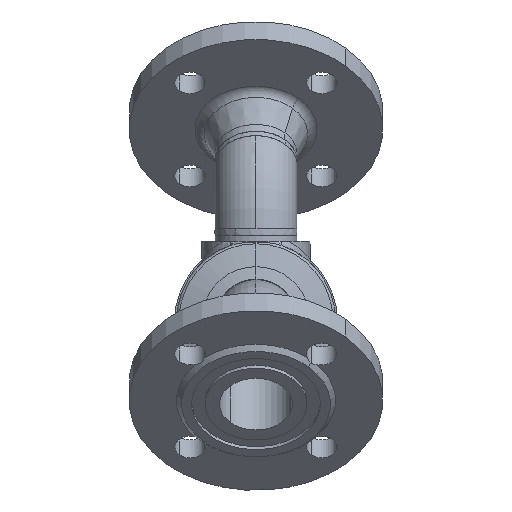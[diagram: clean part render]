
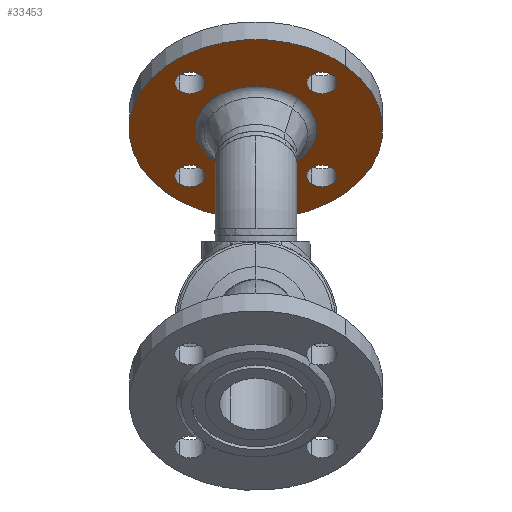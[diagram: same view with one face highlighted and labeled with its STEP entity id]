
A CAD part, front view. The second image highlights one B-rep face of the part: STEP entity #33453.
In plain terms, the highlighted planar face has unit normal (0, -0.707, -0.707) as drawn and (0, 1, 0) by its records, which use the part's own axes.
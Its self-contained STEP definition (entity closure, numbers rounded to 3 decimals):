
#32777 = EDGE_LOOP ( 'NONE', ( #31826, #9749 ) ) ;
#33120 = ORIENTED_EDGE ( 'NONE', *, *, #14533, .F. ) ;
#16929 = VERTEX_POINT ( 'NONE', #36079 ) ;
#33453 = ADVANCED_FACE ( 'NONE', ( #9134, #9135, #9172, #9173, #9174, #9175 ), #9176, .F. ) ;
#50329 = CARTESIAN_POINT ( 'NONE',  ( -9., 18., 55. ) ) ;
#50719 = CIRCLE ( 'NONE', #50720, 9. ) ;
#50720 = AXIS2_PLACEMENT_3D ( 'NONE', #50721, #50722, #50723 ) ;
#50721 = CARTESIAN_POINT ( 'NONE',  ( 0., 18., 55. ) ) ;
#50722 = DIRECTION ( 'NONE',  ( 0., 1., 0. ) ) ;
#50723 = DIRECTION ( 'NONE',  ( 0., 0., -1. ) ) ;
#34834 = EDGE_CURVE ( 'NONE', #38488, #41475, #10770, .T. ) ;
#2844 = ORIENTED_EDGE ( 'NONE', *, *, #43774, .T. ) ;
#35871 = CARTESIAN_POINT ( 'NONE',  ( -9., 18., -55. ) ) ;
#35879 = CARTESIAN_POINT ( 'NONE',  ( -75., 18., 0. ) ) ;
#36079 = CARTESIAN_POINT ( 'NONE',  ( -46., 18., 0. ) ) ;
#36080 = CIRCLE ( 'NONE', #36131, 75. ) ;
#36131 = AXIS2_PLACEMENT_3D ( 'NONE', #36132, #36133, #36134 ) ;
#36132 = CARTESIAN_POINT ( 'NONE',  ( 0., 18., 0. ) ) ;
#36133 = DIRECTION ( 'NONE',  ( 0., 1., 0. ) ) ;
#36134 = DIRECTION ( 'NONE',  ( -1., 0., 0. ) ) ;
#38488 = VERTEX_POINT ( 'NONE', #28221 ) ;
#22146 = ORIENTED_EDGE ( 'NONE', *, *, #30181, .F. ) ;
#6027 = EDGE_CURVE ( 'NONE', #41276, #44269, #28706, .T. ) ;
#6175 = EDGE_CURVE ( 'NONE', #47395, #43178, #43805, .T. ) ;
#39088 = EDGE_CURVE ( 'NONE', #41475, #38488, #30009, .T. ) ;
#6763 = CARTESIAN_POINT ( 'NONE',  ( 36.091, 18., 0. ) ) ;
#6966 = CIRCLE ( 'NONE', #6967, 9. ) ;
#6967 = AXIS2_PLACEMENT_3D ( 'NONE', #6968, #6969, #6970 ) ;
#6968 = CARTESIAN_POINT ( 'NONE',  ( 55., 18., 0. ) ) ;
#6969 = DIRECTION ( 'NONE',  ( 0., 1., 0. ) ) ;
#6970 = DIRECTION ( 'NONE',  ( -1., 0., 0. ) ) ;
#7176 = ORIENTED_EDGE ( 'NONE', *, *, #6175, .T. ) ;
#24365 = EDGE_LOOP ( 'NONE', ( #9750, #46651 ) ) ;
#8161 = EDGE_LOOP ( 'NONE', ( #49030, #33120 ) ) ;
#41276 = VERTEX_POINT ( 'NONE', #45940 ) ;
#25009 = ORIENTED_EDGE ( 'NONE', *, *, #41875, .F. ) ;
#41475 = VERTEX_POINT ( 'NONE', #6763 ) ;
#41875 = EDGE_CURVE ( 'NONE', #44269, #41276, #6966, .T. ) ;
#9134 = FACE_BOUND ( 'NONE', #32777, .T. ) ;
#9135 = FACE_BOUND ( 'NONE', #8161, .T. ) ;
#9172 = FACE_BOUND ( 'NONE', #32677, .T. ) ;
#9173 = FACE_BOUND ( 'NONE', #28443, .T. ) ;
#9174 = FACE_BOUND ( 'NONE', #24365, .T. ) ;
#9175 = FACE_OUTER_BOUND ( 'NONE', #46101, .T. ) ;
#9176 = PLANE ( 'NONE',  #9177 ) ;
#9177 = AXIS2_PLACEMENT_3D ( 'NONE', #9178, #9179, #9180 ) ;
#9178 = CARTESIAN_POINT ( 'NONE',  ( 75., 18., 0. ) ) ;
#9179 = DIRECTION ( 'NONE',  ( 0., -1., 0. ) ) ;
#9180 = DIRECTION ( 'NONE',  ( 1., 0., 0. ) ) ;
#9223 = CARTESIAN_POINT ( 'NONE',  ( 75., 18., 0. ) ) ;
#25991 = CIRCLE ( 'NONE', #26026, 9. ) ;
#26026 = AXIS2_PLACEMENT_3D ( 'NONE', #26027, #26028, #26029 ) ;
#26027 = CARTESIAN_POINT ( 'NONE',  ( 0., 18., -55. ) ) ;
#26028 = DIRECTION ( 'NONE',  ( 0., 1., 0. ) ) ;
#26029 = DIRECTION ( 'NONE',  ( 0., 0., 1. ) ) ;
#9749 = ORIENTED_EDGE ( 'NONE', *, *, #12246, .F. ) ;
#9750 = ORIENTED_EDGE ( 'NONE', *, *, #34834, .F. ) ;
#43127 = VERTEX_POINT ( 'NONE', #35871 ) ;
#43178 = VERTEX_POINT ( 'NONE', #35879 ) ;
#10770 = CIRCLE ( 'NONE', #10771, 36.091 ) ;
#10771 = AXIS2_PLACEMENT_3D ( 'NONE', #10772, #10773, #10774 ) ;
#10772 = CARTESIAN_POINT ( 'NONE',  ( 0., 18., 0. ) ) ;
#10773 = DIRECTION ( 'NONE',  ( 0., 1., 0. ) ) ;
#10774 = DIRECTION ( 'NONE',  ( -1., 0., 0. ) ) ;
#43774 = EDGE_CURVE ( 'NONE', #43178, #47395, #36080, .T. ) ;
#43805 = CIRCLE ( 'NONE', #43806, 75. ) ;
#43806 = AXIS2_PLACEMENT_3D ( 'NONE', #43807, #43808, #43842 ) ;
#43807 = CARTESIAN_POINT ( 'NONE',  ( 0., 18., 0. ) ) ;
#43808 = DIRECTION ( 'NONE',  ( 0., 1., 0. ) ) ;
#27455 = CARTESIAN_POINT ( 'NONE',  ( 64., 18., 0. ) ) ;
#43842 = DIRECTION ( 'NONE',  ( -1., 0., 0. ) ) ;
#27498 = VERTEX_POINT ( 'NONE', #50329 ) ;
#27502 = CARTESIAN_POINT ( 'NONE',  ( 9., 18., 55. ) ) ;
#11150 = EDGE_CURVE ( 'NONE', #43127, #14634, #25991, .T. ) ;
#27595 = ORIENTED_EDGE ( 'NONE', *, *, #6027, .F. ) ;
#44188 = CIRCLE ( 'NONE', #44189, 9. ) ;
#44189 = AXIS2_PLACEMENT_3D ( 'NONE', #44190, #44191, #44192 ) ;
#44190 = CARTESIAN_POINT ( 'NONE',  ( -55., 18., 0. ) ) ;
#44191 = DIRECTION ( 'NONE',  ( 0., 1., 0. ) ) ;
#44192 = DIRECTION ( 'NONE',  ( 1., 0., 0. ) ) ;
#44269 = VERTEX_POINT ( 'NONE', #27455 ) ;
#28090 = EDGE_CURVE ( 'NONE', #30480, #27498, #50719, .T. ) ;
#28221 = CARTESIAN_POINT ( 'NONE',  ( -36.091, 18., 0. ) ) ;
#28443 = EDGE_LOOP ( 'NONE', ( #27595, #25009 ) ) ;
#28444 = ORIENTED_EDGE ( 'NONE', *, *, #28090, .F. ) ;
#44901 = CARTESIAN_POINT ( 'NONE',  ( -64., 18., 0. ) ) ;
#12246 = EDGE_CURVE ( 'NONE', #14634, #43127, #29507, .T. ) ;
#28706 = CIRCLE ( 'NONE', #28707, 9. ) ;
#28707 = AXIS2_PLACEMENT_3D ( 'NONE', #28708, #28709, #28710 ) ;
#28708 = CARTESIAN_POINT ( 'NONE',  ( 55., 18., 0. ) ) ;
#28709 = DIRECTION ( 'NONE',  ( 0., 1., 0. ) ) ;
#28710 = DIRECTION ( 'NONE',  ( -1., 0., 0. ) ) ;
#45753 = CIRCLE ( 'NONE', #45754, 9. ) ;
#45754 = AXIS2_PLACEMENT_3D ( 'NONE', #45755, #45789, #45790 ) ;
#45755 = CARTESIAN_POINT ( 'NONE',  ( -55., 18., 0. ) ) ;
#45789 = DIRECTION ( 'NONE',  ( 0., 1., 0. ) ) ;
#45790 = DIRECTION ( 'NONE',  ( 1., 0., 0. ) ) ;
#29507 = CIRCLE ( 'NONE', #29508, 9. ) ;
#29508 = AXIS2_PLACEMENT_3D ( 'NONE', #29509, #29510, #29511 ) ;
#29509 = CARTESIAN_POINT ( 'NONE',  ( 0., 18., -55. ) ) ;
#29510 = DIRECTION ( 'NONE',  ( 0., 1., 0. ) ) ;
#29511 = DIRECTION ( 'NONE',  ( 0., 0., 1. ) ) ;
#45939 = CARTESIAN_POINT ( 'NONE',  ( 9., 18., -55. ) ) ;
#45940 = CARTESIAN_POINT ( 'NONE',  ( 46., 18., 0. ) ) ;
#46101 = EDGE_LOOP ( 'NONE', ( #2844, #7176 ) ) ;
#30009 = CIRCLE ( 'NONE', #30010, 36.091 ) ;
#30010 = AXIS2_PLACEMENT_3D ( 'NONE', #30011, #30012, #30013 ) ;
#30011 = CARTESIAN_POINT ( 'NONE',  ( 0., 18., 0. ) ) ;
#30012 = DIRECTION ( 'NONE',  ( 0., 1., 0. ) ) ;
#30013 = DIRECTION ( 'NONE',  ( -1., 0., 0. ) ) ;
#30181 = EDGE_CURVE ( 'NONE', #27498, #30480, #15050, .T. ) ;
#46651 = ORIENTED_EDGE ( 'NONE', *, *, #39088, .F. ) ;
#13937 = VERTEX_POINT ( 'NONE', #44901 ) ;
#30480 = VERTEX_POINT ( 'NONE', #27502 ) ;
#14533 = EDGE_CURVE ( 'NONE', #16929, #13937, #45753, .T. ) ;
#14634 = VERTEX_POINT ( 'NONE', #45939 ) ;
#47395 = VERTEX_POINT ( 'NONE', #9223 ) ;
#15050 = CIRCLE ( 'NONE', #15051, 9. ) ;
#15051 = AXIS2_PLACEMENT_3D ( 'NONE', #15086, #15087, #15088 ) ;
#15086 = CARTESIAN_POINT ( 'NONE',  ( 0., 18., 55. ) ) ;
#15087 = DIRECTION ( 'NONE',  ( 0., 1., 0. ) ) ;
#15088 = DIRECTION ( 'NONE',  ( 0., 0., -1. ) ) ;
#31826 = ORIENTED_EDGE ( 'NONE', *, *, #11150, .F. ) ;
#31974 = EDGE_CURVE ( 'NONE', #13937, #16929, #44188, .T. ) ;
#49030 = ORIENTED_EDGE ( 'NONE', *, *, #31974, .F. ) ;
#32677 = EDGE_LOOP ( 'NONE', ( #22146, #28444 ) ) ;
